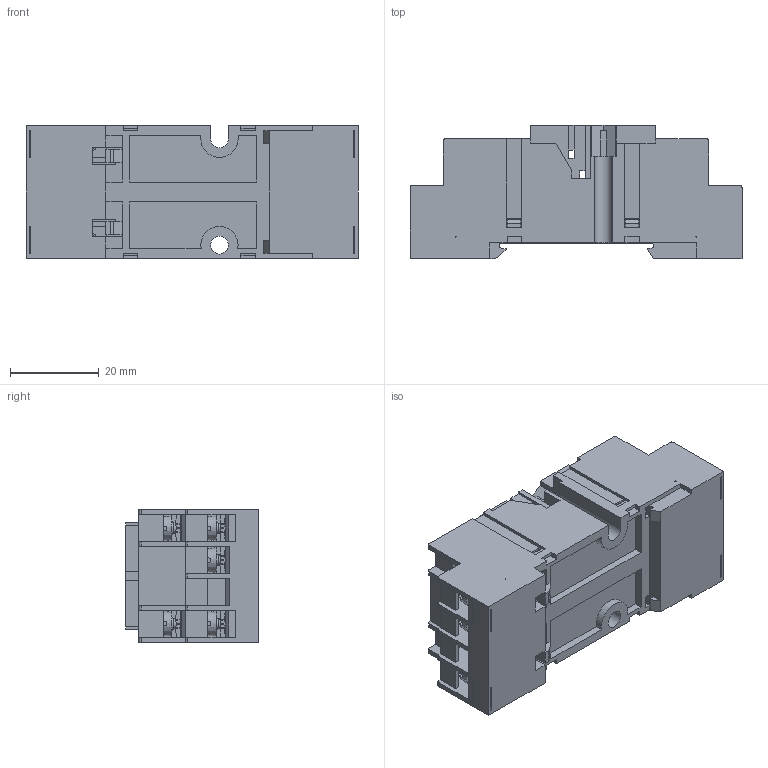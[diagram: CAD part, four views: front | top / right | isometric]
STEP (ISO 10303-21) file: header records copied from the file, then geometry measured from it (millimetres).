
FILE_DESCRIPTION(('STEP AP214'), '1');
FILE_NAME('Ðîçåòêà Ð30-003 (íà ïîêàç)', '', ('UNSPECIFIED'), ('UNSPECIFIED'), 'ASCON STEP Converter 1.6', 'ASCON Math Kernel', '');
FILE_SCHEMA(('AUTOMOTIVE_DESIGN { 1 0 10303 214 3 1 1}'));
Length unit declared in the file: millimetre
Bounding box: 74.9 x 30 x 30 mm (x, y, z)
Volume: 15562.9 mm3; surface area: 26539.5 mm2
Topology: 8 solids, 8 shells, 2498 faces, 7113 edges, 4606 vertices
Faces by surface type: plane 1762, cylinder 395, torus 154, bspline 110, cone 77
Full cylindrical faces by diameter (mm): 2.3 x11, 3 x23, 3.54 x11, 4 x1, 4.5 x14
Entity records: 120164 total; most frequent: CARTESIAN_POINT 37937, ORIENTED_EDGE 13996, DIRECTION 11258, EDGE_CURVE 6998, LINE 4620, VECTOR 4620, VERTEX_POINT 4606, AXIS2_PLACEMENT_3D 3319
